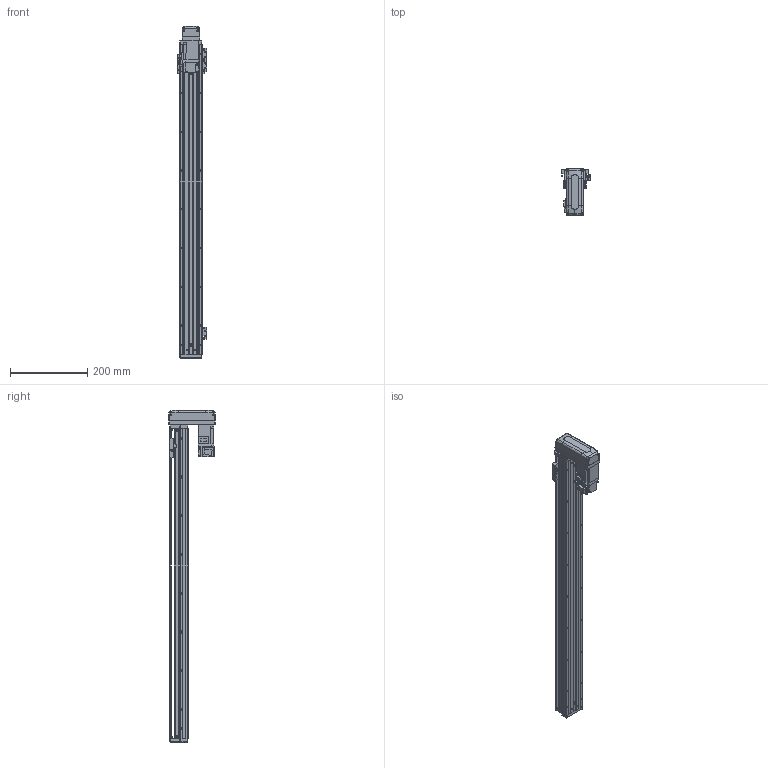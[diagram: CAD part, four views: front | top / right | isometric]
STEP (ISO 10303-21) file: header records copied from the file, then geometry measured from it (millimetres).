
FILE_DESCRIPTION (( 'STEP AP203' ), '1' );
FILE_NAME ('KTHA50-700-BM-M10-C4L.step', '2022-03-19T07:12:33', ( '微软用户' ), ( '微软中国' ), 'SwSTEP 2.0', 'SolidWorks 2020', '' );
FILE_SCHEMA (( 'CONFIG_CONTROL_DESIGN' ));
Length unit declared in the file: millimetre
Products named in the file (18): EE_SX911P_R; GBT 70.3-M3℅6; GBT77-2000 M3×3; HG-KR13（三菱）; KTHA50-001_800; GBT 70.1-M3℅6; CTHA50-015-2_CTHA60-015-2; KTHA50-002; CTHA60-017; CTHA60-033; KTHA50-004; GBT 70.1-M4×12; GBT 70.1-M3×15; KTHA50-005; CTHA60-016; KTHA50-700-BM-M10-C4L; GB¨uT 70.2-M3¡Á6_M3¡Á6; CTHA60-021
Assembly tree (53 placements, depth 2):
  KTHA50-700-BM-M10-C4L
    KTHA50-001_800
    KTHA50-002
    KTHA50-004
    KTHA50-005
    GB¨uT 70.2-M3¡Á6_M3¡Á6  x6
    EE_SX911P_R  x3
    GBT77-2000 M3×3  x6
    GBT 70.1-M3℅6  x6
    CTHA60-017  x3
    GBT 70.1-M4×12  x10
    CTHA60-016  x2
    CTHA60-021  x2
    GBT 70.3-M3℅6  x4
    HG-KR13（三菱）
    CTHA50-015-2_CTHA60-015-2
    CTHA60-033
    GBT 70.1-M3×15  x4
Bounding box: 75.22 x 120 x 857 mm (x, y, z)
Volume: 1658777.3 mm3; surface area: 405748.7 mm2
Topology: 56 solids, 56 shells, 2323 faces, 5519 edges, 3388 vertices
Faces by surface type: plane 1300, cylinder 568, cone 313, torus 100, bspline 26, sphere 16
Entity records: 40173 total; most frequent: CARTESIAN_POINT 7570, DIRECTION 6295, ORIENTED_EDGE 6050, EDGE_CURVE 3025, AXIS2_PLACEMENT_3D 2129, VECTOR 2037, LINE 2037, VERTEX_POINT 1902
